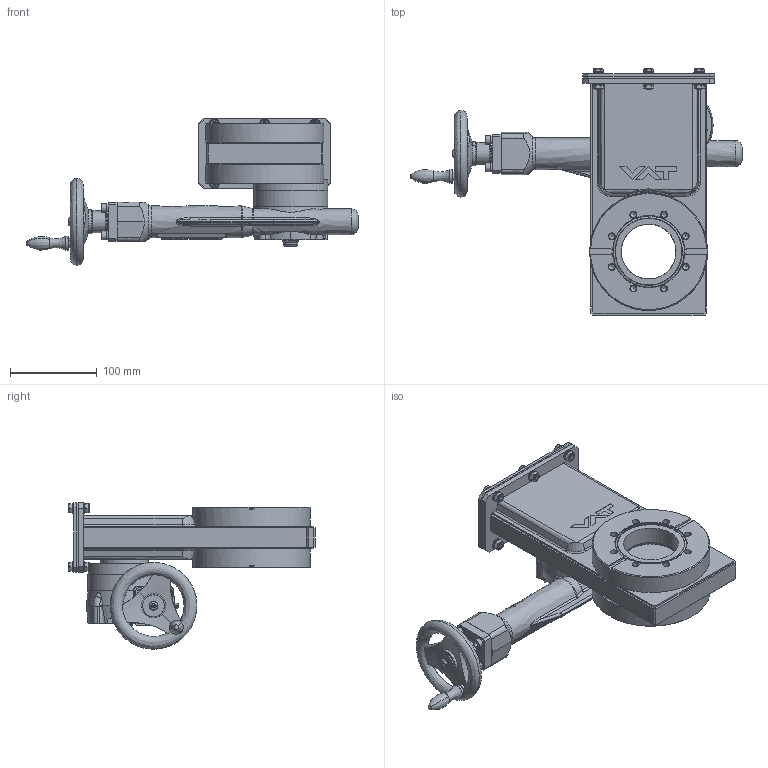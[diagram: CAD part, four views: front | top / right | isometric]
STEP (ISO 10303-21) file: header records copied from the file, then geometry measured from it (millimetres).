
FILE_DESCRIPTION((''),'2;1');
FILE_NAME('O:\MT\MT\Systeme\Cad\Datenexporte\www_vat_ch\230356.stp','2005-07-25T16:22:04',('User'),('SDRC'),'I-DEAS Master Series 9','UNIX','Yes');
FILE_SCHEMA(('CONFIG_CONTROL_DESIGN'));
Length unit declared in the file: millimetre
Assembly tree (77 placements, depth 0):
Bounding box: 382.38 x 283.6 x 168.67 mm (x, y, z)
Volume: 1491558.6 mm3; surface area: 568664.7 mm2
Topology: 97 solids, 97 shells, 2113 faces, 5460 edges, 3610 vertices
Faces by surface type: bspline 2113
Entity records: 69397 total; most frequent: CARTESIAN_POINT 36541, ORIENTED_EDGE 8946, EDGE_CURVE 4473, VERTEX_POINT 2905, EDGE_LOOP 1998, FACE_OUTER_BOUND 1706, ADVANCED_FACE 1706, QUASI_UNIFORM_CURVE 1404
